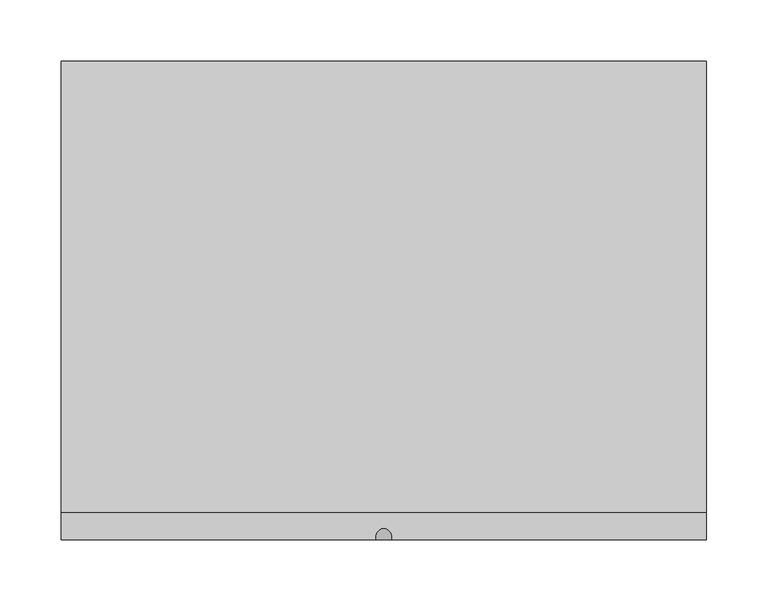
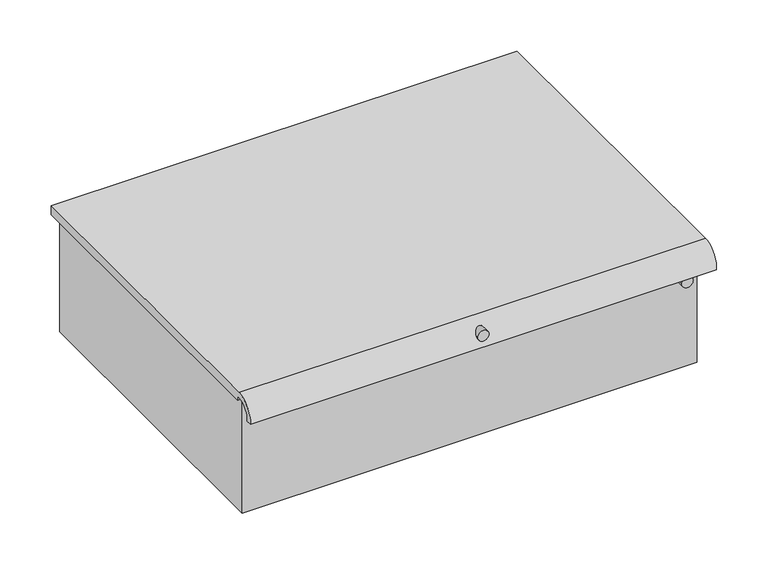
"""IFC4 building model written with IfcOpenShell, lengths in millimetres: furniture geometry, HermanMiller_CoStruc_CO371_LockedDrawerWithLockableLid : B - 6H x 15D x 20W Lid Wlock."""

from ifc_helpers import new_model, si_unit, point, frame, frame_2d, origin, place, context, project, spatial, polyline, circle_curve, trimmed, segment, composite_curve, outline, extrude, source, transform, mapped, element, save
from ifc_brep_helpers import plane_surface, cylinder_surface, revolved_surface, advanced_brep


def furniture_887d2a2e(model_context):
    return source(origin(), model_context, "Body", "SolidModel", [
        extrude(outline(composite_curve([segment(trimmed(circle_curve(frame_2d((754.0752, 231.9974999)), 6.35), [point((754.0752, 238.3474999))], [point((754.0752, 225.6474999))], False, "CARTESIAN"), True, "CONTINUOUS"), segment(trimmed(circle_curve(frame_2d((754.0752, 231.9974999)), 6.35), [point((754.0752, 225.6474999))], [point((754.0752, 238.3474999))], False, "CARTESIAN"), True, "CONTINUOUS")], self_intersect=False)), frame((0.0, -182.5625, 0.0), z_axis=(0.0, 1.0, 0.0), x_axis=(0.0, 0.0, 1.0)), (0.0, 0.0, 1.0), 14.3002),
        extrude(outline(composite_curve([segment(trimmed(circle_curve(frame_2d((781.0754, -6.1275001)), 6.35), [point((781.0754, 0.2224999))], [point((781.0754, -12.4775001))], False, "CARTESIAN"), True, "CONTINUOUS"), segment(trimmed(circle_curve(frame_2d((781.0754, -6.1275001)), 6.35), [point((781.0754, -12.4775001))], [point((781.0754, 0.2224999))], False, "CARTESIAN"), True, "CONTINUOUS")], self_intersect=False)), frame((0.0, -195.2625, 0.0), z_axis=(0.0, 1.0, 0.0), x_axis=(0.0, 0.0, 1.0)), (0.0, 0.0, 1.0), 27.0002),
        advanced_brep(
        [(-263.3025001, -168.2623, 642.9502), (251.0474999, -168.2623, 642.9502), (251.0474999, -168.2623, 781.0754), (-263.3025001, -168.2623, 781.0754), (251.0474999, 188.9125, 642.9502), (-263.3025001, 188.9125, 642.9502), (-263.3025001, 188.9125, 781.0754), (251.0474999, 188.9125, 781.0754), (257.3974999, -173.1367188, 792.1752), (257.3974999, 195.2625, 792.1752), (-269.6525001, 195.2625, 792.1752), (-269.6525001, -173.1367188, 792.1752), (257.3974999, -195.2625, 767.53212), (257.3974999, -188.8606628, 767.53212), (257.3974999, -173.1367188, 785.8252), (257.3974999, -169.8625, 785.8252), (257.3974999, -169.8625, 781.0754), (257.3974999, 195.2625, 781.0754), (-269.6525001, 195.2625, 781.0754), (-269.6525001, -169.8625, 781.0754), (-269.6525001, -169.8625, 785.8252), (-269.6525001, -173.1367188, 785.8252), (-269.6525001, -188.8606628, 767.53212), (-269.6525001, -195.2625, 767.53212)],
        [
            (0, 1),
            (1, 2),
            (2, 3),
            (3, 0),
            (4, 5),
            (5, 6),
            (6, 7),
            (7, 4),
            (0, 5),
            (4, 1),
            (7, 2),
            (8, 9),
            (9, 10),
            (10, 11),
            (11, 8),
            (3, 6),
            (8, 12, circle_curve(frame((257.3974999, -173.1367188, 769.9208473), z_axis=(1.0, 0.0, 0.0), x_axis=(0.0, 1.0, 0.0)), 22.2543527)),
            (12, 13),
            (13, 14, circle_curve(frame((257.3974999, -173.1367188, 769.9208473), z_axis=(-1.0, 0.0, 0.0), x_axis=(0.0, 1.0, 0.0)), 15.9043527)),
            (14, 15),
            (15, 16),
            (16, 17),
            (17, 9),
            (10, 18),
            (18, 19),
            (19, 20),
            (20, 21),
            (21, 22, circle_curve(frame((-269.6525001, -173.1367188, 769.9208473), z_axis=(1.0, 0.0, 0.0), x_axis=(0.0, 1.0, 0.0)), 15.9043527)),
            (22, 23),
            (23, 11, circle_curve(frame((-269.6525001, -173.1367188, 769.9208473), z_axis=(-1.0, 0.0, 0.0), x_axis=(0.0, 1.0, 0.0)), 22.2543527)),
            (23, 12),
            (22, 13),
            (21, 14),
            (20, 15),
            (19, 16),
            (18, 17),
        ],
        [
            plane_surface(frame((251.0474999, -168.2623, 642.9502), z_axis=(0.0, -1.0, 0.0), x_axis=(1.0, 0.0, 0.0))),
            plane_surface(frame((251.0474999, 188.9125, 642.9502), z_axis=(0.0, 1.0, 0.0), x_axis=(-1.0, 0.0, 0.0))),
            plane_surface(frame((-263.3025001, -168.2623, 642.9502), z_axis=(0.0, 0.0, -1.0), x_axis=(0.0, 1.0, 0.0))),
            plane_surface(frame((251.0474999, -168.2623, 642.9502), z_axis=(1.0, 0.0, 0.0), x_axis=(0.0, 1.0, 0.0))),
            plane_surface(frame((251.0474999, -168.2623, 792.1752), z_axis=(0.0, 0.0, 1.0), x_axis=(0.0, 1.0, 0.0))),
            plane_surface(frame((-263.3025001, -168.2623, 792.1752), z_axis=(-1.0, 0.0, 0.0), x_axis=(0.0, 1.0, 0.0))),
            plane_surface(frame((257.3974999, 195.2625, 792.1752), z_axis=(1.0, 0.0, 0.0), x_axis=(0.0, -1.0, 0.0))),
            plane_surface(frame((-269.6525001, 195.2625, 792.1752), z_axis=(-1.0, 0.0, 0.0), x_axis=(0.0, 1.0, 0.0))),
            cylinder_surface(frame((-269.6525001, -173.1367188, 769.9208473), z_axis=(1.0, 0.0, 0.0), x_axis=(0.0, 1.0, 0.0)), 22.2543527),
            plane_surface(frame((257.3974999, -195.2625, 767.53212), z_axis=(0.0, 0.0, -1.0), x_axis=(-1.0, 0.0, 0.0))),
            revolved_surface(polyline([(-269.6525001, -157.2323661, 769.9208473), (257.39749989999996, -157.2323661, 769.9208473)]), (-269.6525001, -173.1367188, 769.9208473), (-1.0, 0.0, 0.0)),
            plane_surface(frame((257.3974999, -173.1367188, 785.8252), z_axis=(0.0, -1.074857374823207e-12, -1.0), x_axis=(-1.0, 0.0, 0.0))),
            plane_surface(frame((257.3974999, -169.8625, 785.8252), z_axis=(0.0, -1.0, 0.0), x_axis=(-1.0, 0.0, 0.0))),
            plane_surface(frame((257.3974999, -169.8625, 781.0754), z_axis=(0.0, 0.0, -1.0), x_axis=(-1.0, 0.0, 0.0))),
            plane_surface(frame((257.3974999, 195.2625, 781.0754), z_axis=(0.0, 1.0, 0.0), x_axis=(-1.0, 0.0, 0.0))),
        ],
        [
            (0, [[1, 2, 3, 4]]),
            (1, [[5, 6, 7, 8]]),
            (2, [[-1, 9, -5, 10]]),
            (3, [[-10, -8, 11, -2]]),
            (4, [[12, 13, 14, 15]]),
            (5, [[-9, -4, 16, -6]]),
            (6, [[-12, 17, 18, 19, 20, 21, 22, 23]]),
            (7, [[24, 25, 26, 27, 28, 29, 30, -14]]),
            (8, [[-17, -15, -30, 31]]),
            (9, [[-18, -31, -29, 32]]),
            (10, [[-19, -32, -28, 33]]),
            (11, [[-20, -33, -27, 34]]),
            (12, [[-21, -34, -26, 35]]),
            (13, [[-22, -35, -25, 36], [-3, -11, -7, -16]]),
            (14, [[-23, -36, -24, -13]]),
        ],
    ),
    ])


if __name__ == "__main__":
    model = new_model("IFC4")
    model_context = context("Model", 3, world=origin())
    ifc_project = project(units=[si_unit("LENGTHUNIT", "METRE", prefix="MILLI")], contexts=[model_context])
    site = spatial("IfcSite", under=ifc_project)
    building = spatial("IfcBuilding", under=site)
    placement = place(None, origin())
    furniture_shape = furniture_887d2a2e(model_context)
    element("IfcFurniture", 1, ObjectType="HermanMiller_CoStruc_CO371_LockedDrawerWithLockableLid : B - 6H x 15D x 20W Lid Wlock", at=placement, inside=building, context=model_context, shape_type="MappedRepresentation", body=[
        mapped(furniture_shape, transform((0.0, 0.0, 0.0), x_axis=(1.0, 0.0, 0.0), y_axis=(0.0, 1.0, 0.0), z_axis=(0.0, 0.0, 1.0))),
    ])
    save(model, "model.ifc")
